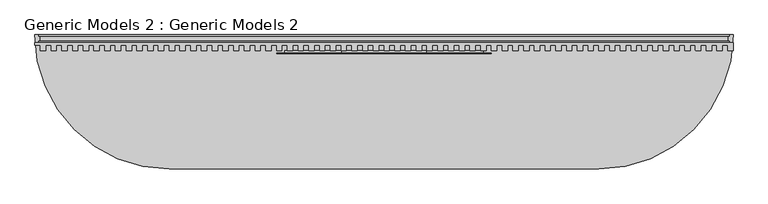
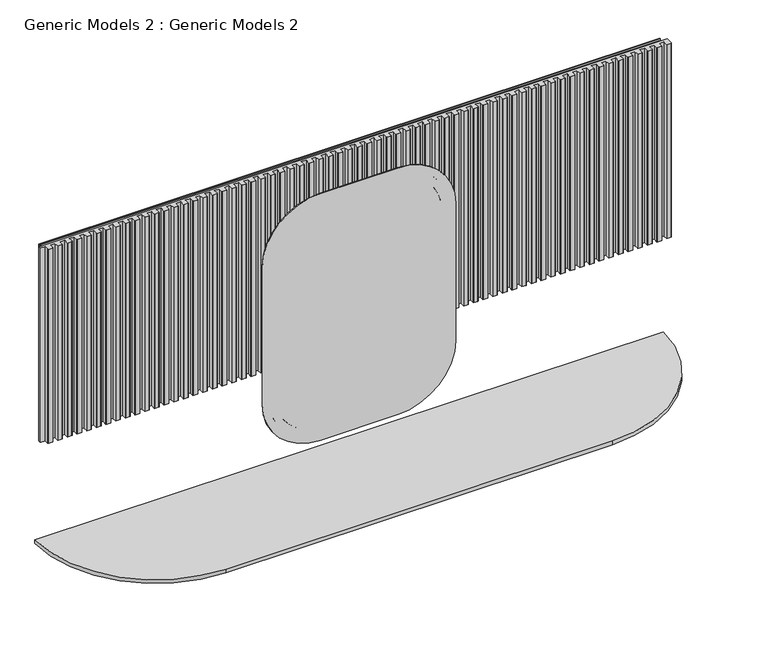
"""IFC4 building model written with IfcOpenShell, lengths in millimetres: proxy geometry, Generic Models 2 : Generic Models 2."""

from ifc_helpers import new_model, si_unit, point, frame, frame_2d, origin, place, context, project, spatial, polyline, circle_curve, trimmed, segment, composite_curve, outline, extrude, faceted_brep, source, transform, mapped, element, save


def generic_models_2_generic_models_2_3f50845c(model_context):
    return source(origin(), model_context, "Body", "SolidModel", [
        extrude(outline(composite_curve([segment(polyline([(4601.8449565, -6094.4040425), (4601.8449565, -6123.4040425)]), True, "CONTINUOUS"), segment(trimmed(circle_curve(frame_2d((4600.8449565, -6123.4040425)), 1.0), [point((4601.8449565, -6123.4040425))], [point((4600.8449565, -6124.4040425))], False, "CARTESIAN"), True, "CONTINUOUS"), segment(polyline([(4600.8449565, -6124.4040425), (4582.8449565, -6124.4040425)]), True, "CONTINUOUS"), segment(trimmed(circle_curve(frame_2d((4582.8449565, -6123.4040425)), 1.0), [point((4582.8449565, -6124.4040425))], [point((4581.8449565, -6123.4040425))], False, "CARTESIAN"), True, "CONTINUOUS"), segment(polyline([(4581.8449565, -6123.4040425), (4581.8449565, -6104.4040425), (4561.8449565, -6104.4040425), (4561.8449565, -6123.4040425)]), True, "CONTINUOUS"), segment(trimmed(circle_curve(frame_2d((4560.8449565, -6123.4040425)), 1.0), [point((4561.8449565, -6123.4040425))], [point((4560.8449565, -6124.4040425))], False, "CARTESIAN"), True, "CONTINUOUS"), segment(polyline([(4560.8449565, -6124.4040425), (4542.8449565, -6124.4040425)]), True, "CONTINUOUS"), segment(trimmed(circle_curve(frame_2d((4542.8449565, -6123.4040425)), 1.0), [point((4542.8449565, -6124.4040425))], [point((4541.8449565, -6123.4040425))], False, "CARTESIAN"), True, "CONTINUOUS"), segment(polyline([(4541.8449565, -6123.4040425), (4541.8449565, -6104.4040425), (4521.8449565, -6104.4040425), (4521.8449565, -6123.4040425)]), True, "CONTINUOUS"), segment(trimmed(circle_curve(frame_2d((4520.8449565, -6123.4040425)), 1.0), [point((4521.8449565, -6123.4040425))], [point((4520.8449565, -6124.4040425))], False, "CARTESIAN"), True, "CONTINUOUS"), segment(polyline([(4520.8449565, -6124.4040425), (4502.8449565, -6124.4040425)]), True, "CONTINUOUS"), segment(trimmed(circle_curve(frame_2d((4502.8449565, -6123.4040425)), 1.0), [point((4502.8449565, -6124.4040425))], [point((4501.8449565, -6123.4040425))], False, "CARTESIAN"), True, "CONTINUOUS"), segment(polyline([(4501.8449565, -6123.4040425), (4501.8449565, -6104.4040425), (4481.8449565, -6104.4040425), (4481.8449565, -6123.4040425)]), True, "CONTINUOUS"), segment(trimmed(circle_curve(frame_2d((4480.8449565, -6123.4040425)), 1.0), [point((4481.8449565, -6123.4040425))], [point((4480.8449565, -6124.4040425))], False, "CARTESIAN"), True, "CONTINUOUS"), segment(polyline([(4480.8449565, -6124.4040425), (4462.8449565, -6124.4040425)]), True, "CONTINUOUS"), segment(trimmed(circle_curve(frame_2d((4462.8449565, -6123.4040425)), 1.0), [point((4462.8449565, -6124.4040425))], [point((4461.8449565, -6123.4040425))], False, "CARTESIAN"), True, "CONTINUOUS"), segment(polyline([(4461.8449565, -6123.4040425), (4461.8449565, -6104.4040425), (4441.8449565, -6104.4040425), (4441.8449565, -6123.4040425)]), True, "CONTINUOUS"), segment(trimmed(circle_curve(frame_2d((4440.8449565, -6123.4040425)), 1.0), [point((4441.8449565, -6123.4040425))], [point((4440.8449565, -6124.4040425))], False, "CARTESIAN"), True, "CONTINUOUS"), segment(polyline([(4440.8449565, -6124.4040425), (4422.8449565, -6124.4040425)]), True, "CONTINUOUS"), segment(trimmed(circle_curve(frame_2d((4422.8449565, -6123.4040425)), 1.0), [point((4422.8449565, -6124.4040425))], [point((4421.8449565, -6123.4040425))], False, "CARTESIAN"), True, "CONTINUOUS"), segment(polyline([(4421.8449565, -6123.4040425), (4421.8449565, -6104.4040425), (4401.8449565, -6104.4040425), (4401.8449565, -6123.4040425)]), True, "CONTINUOUS"), segment(trimmed(circle_curve(frame_2d((4400.8449565, -6123.4040425)), 1.0), [point((4401.8449565, -6123.4040425))], [point((4400.8449565, -6124.4040425))], False, "CARTESIAN"), True, "CONTINUOUS"), segment(polyline([(4400.8449565, -6124.4040425), (4382.8449565, -6124.4040425)]), True, "CONTINUOUS"), segment(trimmed(circle_curve(frame_2d((4382.8449565, -6123.4040425)), 1.0), [point((4382.8449565, -6124.4040425))], [point((4381.8449565, -6123.4040425))], False, "CARTESIAN"), True, "CONTINUOUS"), segment(polyline([(4381.8449565, -6123.4040425), (4381.8449565, -6104.4040425), (4361.8449565, -6104.4040425), (4361.8449565, -6123.4040425)]), True, "CONTINUOUS"), segment(trimmed(circle_curve(frame_2d((4360.8449565, -6123.4040425)), 1.0), [point((4361.8449565, -6123.4040425))], [point((4360.8449565, -6124.4040425))], False, "CARTESIAN"), True, "CONTINUOUS"), segment(polyline([(4360.8449565, -6124.4040425), (4342.8449565, -6124.4040425)]), True, "CONTINUOUS"), segment(trimmed(circle_curve(frame_2d((4342.8449565, -6123.4040425)), 1.0), [point((4342.8449565, -6124.4040425))], [point((4341.8449565, -6123.4040425))], False, "CARTESIAN"), True, "CONTINUOUS"), segment(polyline([(4341.8449565, -6123.4040425), (4341.8449565, -6104.4040425), (4321.8449565, -6104.4040425), (4321.8449565, -6123.4040425)]), True, "CONTINUOUS"), segment(trimmed(circle_curve(frame_2d((4320.8449565, -6123.4040425)), 1.0), [point((4321.8449565, -6123.4040425))], [point((4320.8449565, -6124.4040425))], False, "CARTESIAN"), True, "CONTINUOUS"), segment(polyline([(4320.8449565, -6124.4040425), (4302.8449565, -6124.4040425)]), True, "CONTINUOUS"), segment(trimmed(circle_curve(frame_2d((4302.8449565, -6123.4040425)), 1.0), [point((4302.8449565, -6124.4040425))], [point((4301.8449565, -6123.4040425))], False, "CARTESIAN"), True, "CONTINUOUS"), segment(polyline([(4301.8449565, -6123.4040425), (4301.8449565, -6104.4040425), (4281.8449565, -6104.4040425), (4281.8449565, -6123.4040425)]), True, "CONTINUOUS"), segment(trimmed(circle_curve(frame_2d((4280.8449565, -6123.4040425)), 1.0), [point((4281.8449565, -6123.4040425))], [point((4280.8449565, -6124.4040425))], False, "CARTESIAN"), True, "CONTINUOUS"), segment(polyline([(4280.8449565, -6124.4040425), (4262.8449565, -6124.4040425)]), True, "CONTINUOUS"), segment(trimmed(circle_curve(frame_2d((4262.8449565, -6123.4040425)), 1.0), [point((4262.8449565, -6124.4040425))], [point((4261.8449565, -6123.4040425))], False, "CARTESIAN"), True, "CONTINUOUS"), segment(polyline([(4261.8449565, -6123.4040425), (4261.8449565, -6104.4040425), (4241.8449565, -6104.4040425), (4241.8449565, -6123.4040425)]), True, "CONTINUOUS"), segment(trimmed(circle_curve(frame_2d((4240.8449565, -6123.4040425)), 1.0), [point((4241.8449565, -6123.4040425))], [point((4240.8449565, -6124.4040425))], False, "CARTESIAN"), True, "CONTINUOUS"), segment(polyline([(4240.8449565, -6124.4040425), (4222.8449565, -6124.4040425)]), True, "CONTINUOUS"), segment(trimmed(circle_curve(frame_2d((4222.8449565, -6123.4040425)), 1.0), [point((4222.8449565, -6124.4040425))], [point((4221.8449565, -6123.4040425))], False, "CARTESIAN"), True, "CONTINUOUS"), segment(polyline([(4221.8449565, -6123.4040425), (4221.8449565, -6104.4040425), (4201.8449565, -6104.4040425), (4201.8449565, -6123.4040425)]), True, "CONTINUOUS"), segment(trimmed(circle_curve(frame_2d((4200.8449565, -6123.4040425)), 1.0), [point((4201.8449565, -6123.4040425))], [point((4200.8449565, -6124.4040425))], False, "CARTESIAN"), True, "CONTINUOUS"), segment(polyline([(4200.8449565, -6124.4040425), (4182.8449565, -6124.4040425)]), True, "CONTINUOUS"), segment(trimmed(circle_curve(frame_2d((4182.8449565, -6123.4040425)), 1.0), [point((4182.8449565, -6124.4040425))], [point((4181.8449565, -6123.4040425))], False, "CARTESIAN"), True, "CONTINUOUS"), segment(polyline([(4181.8449565, -6123.4040425), (4181.8449565, -6104.4040425), (4161.8449565, -6104.4040425), (4161.8449565, -6123.4040425)]), True, "CONTINUOUS"), segment(trimmed(circle_curve(frame_2d((4160.8449565, -6123.4040425)), 1.0), [point((4161.8449565, -6123.4040425))], [point((4160.8449565, -6124.4040425))], False, "CARTESIAN"), True, "CONTINUOUS"), segment(polyline([(4160.8449565, -6124.4040425), (4142.8449565, -6124.4040425)]), True, "CONTINUOUS"), segment(trimmed(circle_curve(frame_2d((4142.8449565, -6123.4040425)), 1.0), [point((4142.8449565, -6124.4040425))], [point((4141.8449565, -6123.4040425))], False, "CARTESIAN"), True, "CONTINUOUS"), segment(polyline([(4141.8449565, -6123.4040425), (4141.8449565, -6104.4040425), (4121.8449565, -6104.4040425), (4121.8449565, -6123.4040425)]), True, "CONTINUOUS"), segment(trimmed(circle_curve(frame_2d((4120.8449565, -6123.4040425)), 1.0), [point((4121.8449565, -6123.4040425))], [point((4120.8449565, -6124.4040425))], False, "CARTESIAN"), True, "CONTINUOUS"), segment(polyline([(4120.8449565, -6124.4040425), (4102.8449565, -6124.4040425)]), True, "CONTINUOUS"), segment(trimmed(circle_curve(frame_2d((4102.8449565, -6123.4040425)), 1.0), [point((4102.8449565, -6124.4040425))], [point((4101.8449565, -6123.4040425))], False, "CARTESIAN"), True, "CONTINUOUS"), segment(polyline([(4101.8449565, -6123.4040425), (4101.8449565, -6104.4040425), (4081.8449565, -6104.4040425), (4081.8449565, -6123.4040425)]), True, "CONTINUOUS"), segment(trimmed(circle_curve(frame_2d((4080.8449565, -6123.4040425)), 1.0), [point((4081.8449565, -6123.4040425))], [point((4080.8449565, -6124.4040425))], False, "CARTESIAN"), True, "CONTINUOUS"), segment(polyline([(4080.8449565, -6124.4040425), (4062.8449565, -6124.4040425)]), True, "CONTINUOUS"), segment(trimmed(circle_curve(frame_2d((4062.8449565, -6123.4040425)), 1.0), [point((4062.8449565, -6124.4040425))], [point((4061.8449565, -6123.4040425))], False, "CARTESIAN"), True, "CONTINUOUS"), segment(polyline([(4061.8449565, -6123.4040425), (4061.8449565, -6104.4040425), (4041.8449565, -6104.4040425), (4041.8449565, -6123.4040425)]), True, "CONTINUOUS"), segment(trimmed(circle_curve(frame_2d((4040.8449565, -6123.4040425)), 1.0), [point((4041.8449565, -6123.4040425))], [point((4040.8449565, -6124.4040425))], False, "CARTESIAN"), True, "CONTINUOUS"), segment(polyline([(4040.8449565, -6124.4040425), (4022.8449565, -6124.4040425)]), True, "CONTINUOUS"), segment(trimmed(circle_curve(frame_2d((4022.8449565, -6123.4040425)), 1.0), [point((4022.8449565, -6124.4040425))], [point((4021.8449565, -6123.4040425))], False, "CARTESIAN"), True, "CONTINUOUS"), segment(polyline([(4021.8449565, -6123.4040425), (4021.8449565, -6104.4040425), (4001.8449565, -6104.4040425), (4001.8449565, -6123.4040425)]), True, "CONTINUOUS"), segment(trimmed(circle_curve(frame_2d((4000.8449565, -6123.4040425)), 1.0), [point((4001.8449565, -6123.4040425))], [point((4000.8449565, -6124.4040425))], False, "CARTESIAN"), True, "CONTINUOUS"), segment(polyline([(4000.8449565, -6124.4040425), (3982.8449565, -6124.4040425)]), True, "CONTINUOUS"), segment(trimmed(circle_curve(frame_2d((3982.8449565, -6123.4040425)), 1.0), [point((3982.8449565, -6124.4040425))], [point((3981.8449565, -6123.4040425))], False, "CARTESIAN"), True, "CONTINUOUS"), segment(polyline([(3981.8449565, -6123.4040425), (3981.8449565, -6104.4040425), (3961.8449565, -6104.4040425), (3961.8449565, -6123.4040425)]), True, "CONTINUOUS"), segment(trimmed(circle_curve(frame_2d((3960.8449565, -6123.4040425)), 1.0), [point((3961.8449565, -6123.4040425))], [point((3960.8449565, -6124.4040425))], False, "CARTESIAN"), True, "CONTINUOUS"), segment(polyline([(3960.8449565, -6124.4040425), (3942.8449565, -6124.4040425)]), True, "CONTINUOUS"), segment(trimmed(circle_curve(frame_2d((3942.8449565, -6123.4040425)), 1.0), [point((3942.8449565, -6124.4040425))], [point((3941.8449565, -6123.4040425))], False, "CARTESIAN"), True, "CONTINUOUS"), segment(polyline([(3941.8449565, -6123.4040425), (3941.8449565, -6104.4040425), (3921.8449565, -6104.4040425), (3921.8449565, -6123.4040425)]), True, "CONTINUOUS"), segment(trimmed(circle_curve(frame_2d((3920.8449565, -6123.4040425)), 1.0), [point((3921.8449565, -6123.4040425))], [point((3920.8449565, -6124.4040425))], False, "CARTESIAN"), True, "CONTINUOUS"), segment(polyline([(3920.8449565, -6124.4040425), (3902.8449565, -6124.4040425)]), True, "CONTINUOUS"), segment(trimmed(circle_curve(frame_2d((3902.8449565, -6123.4040425)), 1.0), [point((3902.8449565, -6124.4040425))], [point((3901.8449565, -6123.4040425))], False, "CARTESIAN"), True, "CONTINUOUS"), segment(polyline([(3901.8449565, -6123.4040425), (3901.8449565, -6104.4040425), (3881.8449565, -6104.4040425), (3881.8449565, -6123.4040425)]), True, "CONTINUOUS"), segment(trimmed(circle_curve(frame_2d((3880.8449565, -6123.4040425)), 1.0), [point((3881.8449565, -6123.4040425))], [point((3880.8449565, -6124.4040425))], False, "CARTESIAN"), True, "CONTINUOUS"), segment(polyline([(3880.8449565, -6124.4040425), (3862.8449565, -6124.4040425)]), True, "CONTINUOUS"), segment(trimmed(circle_curve(frame_2d((3862.8449565, -6123.4040425)), 1.0), [point((3862.8449565, -6124.4040425))], [point((3861.8449565, -6123.4040425))], False, "CARTESIAN"), True, "CONTINUOUS"), segment(polyline([(3861.8449565, -6123.4040425), (3861.8449565, -6104.4040425), (3841.8449565, -6104.4040425), (3841.8449565, -6123.4040425)]), True, "CONTINUOUS"), segment(trimmed(circle_curve(frame_2d((3840.8449565, -6123.4040425)), 1.0), [point((3841.8449565, -6123.4040425))], [point((3840.8449565, -6124.4040425))], False, "CARTESIAN"), True, "CONTINUOUS"), segment(polyline([(3840.8449565, -6124.4040425), (3822.8449565, -6124.4040425)]), True, "CONTINUOUS"), segment(trimmed(circle_curve(frame_2d((3822.8449565, -6123.4040425)), 1.0), [point((3822.8449565, -6124.4040425))], [point((3821.8449565, -6123.4040425))], False, "CARTESIAN"), True, "CONTINUOUS"), segment(polyline([(3821.8449565, -6123.4040425), (3821.8449565, -6104.4040425), (3801.8449565, -6104.4040425), (3801.8449565, -6123.4040425)]), True, "CONTINUOUS"), segment(trimmed(circle_curve(frame_2d((3800.8449565, -6123.4040425)), 1.0), [point((3801.8449565, -6123.4040425))], [point((3800.8449565, -6124.4040425))], False, "CARTESIAN"), True, "CONTINUOUS"), segment(polyline([(3800.8449565, -6124.4040425), (3782.8449565, -6124.4040425)]), True, "CONTINUOUS"), segment(trimmed(circle_curve(frame_2d((3782.8449565, -6123.4040425)), 1.0), [point((3782.8449565, -6124.4040425))], [point((3781.8449565, -6123.4040425))], False, "CARTESIAN"), True, "CONTINUOUS"), segment(polyline([(3781.8449565, -6123.4040425), (3781.8449565, -6104.4040425), (3761.8449565, -6104.4040425), (3761.8449565, -6123.4040425)]), True, "CONTINUOUS"), segment(trimmed(circle_curve(frame_2d((3760.8449565, -6123.4040425)), 1.0), [point((3761.8449565, -6123.4040425))], [point((3760.8449565, -6124.4040425))], False, "CARTESIAN"), True, "CONTINUOUS"), segment(polyline([(3760.8449565, -6124.4040425), (3742.8449565, -6124.4040425)]), True, "CONTINUOUS"), segment(trimmed(circle_curve(frame_2d((3742.8449565, -6123.4040425)), 1.0), [point((3742.8449565, -6124.4040425))], [point((3741.8449565, -6123.4040425))], False, "CARTESIAN"), True, "CONTINUOUS"), segment(polyline([(3741.8449565, -6123.4040425), (3741.8449565, -6104.4040425), (3721.8449565, -6104.4040425), (3721.8449565, -6123.4040425)]), True, "CONTINUOUS"), segment(trimmed(circle_curve(frame_2d((3720.8449565, -6123.4040425)), 1.0), [point((3721.8449565, -6123.4040425))], [point((3720.8449565, -6124.4040425))], False, "CARTESIAN"), True, "CONTINUOUS"), segment(polyline([(3720.8449565, -6124.4040425), (3702.8449565, -6124.4040425)]), True, "CONTINUOUS"), segment(trimmed(circle_curve(frame_2d((3702.8449565, -6123.4040425)), 1.0), [point((3702.8449565, -6124.4040425))], [point((3701.8449565, -6123.4040425))], False, "CARTESIAN"), True, "CONTINUOUS"), segment(polyline([(3701.8449565, -6123.4040425), (3701.8449565, -6104.4040425), (3681.8449565, -6104.4040425), (3681.8449565, -6123.4040425)]), True, "CONTINUOUS"), segment(trimmed(circle_curve(frame_2d((3680.8449565, -6123.4040425)), 1.0), [point((3681.8449565, -6123.4040425))], [point((3680.8449565, -6124.4040425))], False, "CARTESIAN"), True, "CONTINUOUS"), segment(polyline([(3680.8449565, -6124.4040425), (3662.8449565, -6124.4040425)]), True, "CONTINUOUS"), segment(trimmed(circle_curve(frame_2d((3662.8449565, -6123.4040425)), 1.0), [point((3662.8449565, -6124.4040425))], [point((3661.8449565, -6123.4040425))], False, "CARTESIAN"), True, "CONTINUOUS"), segment(polyline([(3661.8449565, -6123.4040425), (3661.8449565, -6104.4040425), (3641.8449565, -6104.4040425), (3641.8449565, -6123.4040425)]), True, "CONTINUOUS"), segment(trimmed(circle_curve(frame_2d((3640.8449565, -6123.4040425)), 1.0), [point((3641.8449565, -6123.4040425))], [point((3640.8449565, -6124.4040425))], False, "CARTESIAN"), True, "CONTINUOUS"), segment(polyline([(3640.8449565, -6124.4040425), (3622.8449565, -6124.4040425)]), True, "CONTINUOUS"), segment(trimmed(circle_curve(frame_2d((3622.8449565, -6123.4040425)), 1.0), [point((3622.8449565, -6124.4040425))], [point((3621.8449565, -6123.4040425))], False, "CARTESIAN"), True, "CONTINUOUS"), segment(polyline([(3621.8449565, -6123.4040425), (3621.8449565, -6104.4040425), (3601.8449565, -6104.4040425), (3601.8449565, -6123.4040425)]), True, "CONTINUOUS"), segment(trimmed(circle_curve(frame_2d((3600.8449565, -6123.4040425)), 1.0), [point((3601.8449565, -6123.4040425))], [point((3600.8449565, -6124.4040425))], False, "CARTESIAN"), True, "CONTINUOUS"), segment(polyline([(3600.8449565, -6124.4040425), (3582.8449565, -6124.4040425)]), True, "CONTINUOUS"), segment(trimmed(circle_curve(frame_2d((3582.8449565, -6123.4040425)), 1.0), [point((3582.8449565, -6124.4040425))], [point((3581.8449565, -6123.4040425))], False, "CARTESIAN"), True, "CONTINUOUS"), segment(polyline([(3581.8449565, -6123.4040425), (3581.8449565, -6104.4040425), (3561.8449565, -6104.4040425), (3561.8449565, -6123.4040425)]), True, "CONTINUOUS"), segment(trimmed(circle_curve(frame_2d((3560.8449565, -6123.4040425)), 1.0), [point((3561.8449565, -6123.4040425))], [point((3560.8449565, -6124.4040425))], False, "CARTESIAN"), True, "CONTINUOUS"), segment(polyline([(3560.8449565, -6124.4040425), (3542.8449565, -6124.4040425)]), True, "CONTINUOUS"), segment(trimmed(circle_curve(frame_2d((3542.8449565, -6123.4040425)), 1.0), [point((3542.8449565, -6124.4040425))], [point((3541.8449565, -6123.4040425))], False, "CARTESIAN"), True, "CONTINUOUS"), segment(polyline([(3541.8449565, -6123.4040425), (3541.8449565, -6104.4040425), (3521.8449565, -6104.4040425), (3521.8449565, -6123.4040425)]), True, "CONTINUOUS"), segment(trimmed(circle_curve(frame_2d((3520.8449565, -6123.4040425)), 1.0), [point((3521.8449565, -6123.4040425))], [point((3520.8449565, -6124.4040425))], False, "CARTESIAN"), True, "CONTINUOUS"), segment(polyline([(3520.8449565, -6124.4040425), (3502.8449565, -6124.4040425)]), True, "CONTINUOUS"), segment(trimmed(circle_curve(frame_2d((3502.8449565, -6123.4040425)), 1.0), [point((3502.8449565, -6124.4040425))], [point((3501.8449565, -6123.4040425))], False, "CARTESIAN"), True, "CONTINUOUS"), segment(polyline([(3501.8449565, -6123.4040425), (3501.8449565, -6104.4040425), (3481.8449565, -6104.4040425), (3481.8449565, -6123.4040425)]), True, "CONTINUOUS"), segment(trimmed(circle_curve(frame_2d((3480.8449565, -6123.4040425)), 1.0), [point((3481.8449565, -6123.4040425))], [point((3480.8449565, -6124.4040425))], False, "CARTESIAN"), True, "CONTINUOUS"), segment(polyline([(3480.8449565, -6124.4040425), (3462.8449565, -6124.4040425)]), True, "CONTINUOUS"), segment(trimmed(circle_curve(frame_2d((3462.8449565, -6123.4040425)), 1.0), [point((3462.8449565, -6124.4040425))], [point((3461.8449565, -6123.4040425))], False, "CARTESIAN"), True, "CONTINUOUS"), segment(polyline([(3461.8449565, -6123.4040425), (3461.8449565, -6104.4040425), (3441.8449565, -6104.4040425), (3441.8449565, -6123.4040425)]), True, "CONTINUOUS"), segment(trimmed(circle_curve(frame_2d((3440.8449565, -6123.4040425)), 1.0), [point((3441.8449565, -6123.4040425))], [point((3440.8449565, -6124.4040425))], False, "CARTESIAN"), True, "CONTINUOUS"), segment(polyline([(3440.8449565, -6124.4040425), (3422.8449565, -6124.4040425)]), True, "CONTINUOUS"), segment(trimmed(circle_curve(frame_2d((3422.8449565, -6123.4040425)), 1.0), [point((3422.8449565, -6124.4040425))], [point((3421.8449565, -6123.4040425))], False, "CARTESIAN"), True, "CONTINUOUS"), segment(polyline([(3421.8449565, -6123.4040425), (3421.8449565, -6104.4040425), (3401.8449565, -6104.4040425), (3401.8449565, -6123.4040425)]), True, "CONTINUOUS"), segment(trimmed(circle_curve(frame_2d((3400.8449565, -6123.4040425)), 1.0), [point((3401.8449565, -6123.4040425))], [point((3400.8449565, -6124.4040425))], False, "CARTESIAN"), True, "CONTINUOUS"), segment(polyline([(3400.8449565, -6124.4040425), (3382.8449565, -6124.4040425)]), True, "CONTINUOUS"), segment(trimmed(circle_curve(frame_2d((3382.8449565, -6123.4040425)), 1.0), [point((3382.8449565, -6124.4040425))], [point((3381.8449565, -6123.4040425))], False, "CARTESIAN"), True, "CONTINUOUS"), segment(polyline([(3381.8449565, -6123.4040425), (3381.8449565, -6104.4040425), (3361.8449565, -6104.4040425), (3361.8449565, -6123.4040425)]), True, "CONTINUOUS"), segment(trimmed(circle_curve(frame_2d((3360.8449565, -6123.4040425)), 1.0), [point((3361.8449565, -6123.4040425))], [point((3360.8449565, -6124.4040425))], False, "CARTESIAN"), True, "CONTINUOUS"), segment(polyline([(3360.8449565, -6124.4040425), (3342.8449565, -6124.4040425)]), True, "CONTINUOUS"), segment(trimmed(circle_curve(frame_2d((3342.8449565, -6123.4040425)), 1.0), [point((3342.8449565, -6124.4040425))], [point((3341.8449565, -6123.4040425))], False, "CARTESIAN"), True, "CONTINUOUS"), segment(polyline([(3341.8449565, -6123.4040425), (3341.8449565, -6104.4040425), (3321.8449565, -6104.4040425), (3321.8449565, -6123.4040425)]), True, "CONTINUOUS"), segment(trimmed(circle_curve(frame_2d((3320.8449565, -6123.4040425)), 1.0), [point((3321.8449565, -6123.4040425))], [point((3320.8449565, -6124.4040425))], False, "CARTESIAN"), True, "CONTINUOUS"), segment(polyline([(3320.8449565, -6124.4040425), (3302.8449565, -6124.4040425)]), True, "CONTINUOUS"), segment(trimmed(circle_curve(frame_2d((3302.8449565, -6123.4040425)), 1.0), [point((3302.8449565, -6124.4040425))], [point((3301.8449565, -6123.4040425))], False, "CARTESIAN"), True, "CONTINUOUS"), segment(polyline([(3301.8449565, -6123.4040425), (3301.8449565, -6104.4040425), (3281.8449565, -6104.4040425), (3281.8449565, -6123.4040425)]), True, "CONTINUOUS"), segment(trimmed(circle_curve(frame_2d((3280.8449565, -6123.4040425)), 1.0), [point((3281.8449565, -6123.4040425))], [point((3280.8449565, -6124.4040425))], False, "CARTESIAN"), True, "CONTINUOUS"), segment(polyline([(3280.8449565, -6124.4040425), (3262.8449565, -6124.4040425)]), True, "CONTINUOUS"), segment(trimmed(circle_curve(frame_2d((3262.8449565, -6123.4040425)), 1.0), [point((3262.8449565, -6124.4040425))], [point((3261.8449565, -6123.4040425))], False, "CARTESIAN"), True, "CONTINUOUS"), segment(polyline([(3261.8449565, -6123.4040425), (3261.8449565, -6104.4040425), (3241.8449565, -6104.4040425), (3241.8449565, -6123.4040425)]), True, "CONTINUOUS"), segment(trimmed(circle_curve(frame_2d((3240.8449565, -6123.4040425)), 1.0), [point((3241.8449565, -6123.4040425))], [point((3240.8449565, -6124.4040425))], False, "CARTESIAN"), True, "CONTINUOUS"), segment(polyline([(3240.8449565, -6124.4040425), (3222.8449565, -6124.4040425)]), True, "CONTINUOUS"), segment(trimmed(circle_curve(frame_2d((3222.8449565, -6123.4040425)), 1.0), [point((3222.8449565, -6124.4040425))], [point((3221.8449565, -6123.4040425))], False, "CARTESIAN"), True, "CONTINUOUS"), segment(polyline([(3221.8449565, -6123.4040425), (3221.8449565, -6104.4040425), (3201.8449565, -6104.4040425), (3201.8449565, -6123.4040425)]), True, "CONTINUOUS"), segment(trimmed(circle_curve(frame_2d((3200.8449565, -6123.4040425)), 1.0), [point((3201.8449565, -6123.4040425))], [point((3200.8449565, -6124.4040425))], False, "CARTESIAN"), True, "CONTINUOUS"), segment(polyline([(3200.8449565, -6124.4040425), (3182.8449565, -6124.4040425)]), True, "CONTINUOUS"), segment(trimmed(circle_curve(frame_2d((3182.8449565, -6123.4040425)), 1.0), [point((3182.8449565, -6124.4040425))], [point((3181.8449565, -6123.4040425))], False, "CARTESIAN"), True, "CONTINUOUS"), segment(polyline([(3181.8449565, -6123.4040425), (3181.8449565, -6104.4040425), (3161.8449565, -6104.4040425), (3161.8449565, -6123.4040425)]), True, "CONTINUOUS"), segment(trimmed(circle_curve(frame_2d((3160.8449565, -6123.4040425)), 1.0), [point((3161.8449565, -6123.4040425))], [point((3160.8449565, -6124.4040425))], False, "CARTESIAN"), True, "CONTINUOUS"), segment(polyline([(3160.8449565, -6124.4040425), (3142.8449565, -6124.4040425)]), True, "CONTINUOUS"), segment(trimmed(circle_curve(frame_2d((3142.8449565, -6123.4040425)), 1.0), [point((3142.8449565, -6124.4040425))], [point((3141.8449565, -6123.4040425))], False, "CARTESIAN"), True, "CONTINUOUS"), segment(polyline([(3141.8449565, -6123.4040425), (3141.8449565, -6104.4040425), (3121.8449565, -6104.4040425), (3121.8449565, -6123.4040425)]), True, "CONTINUOUS"), segment(trimmed(circle_curve(frame_2d((3120.8449565, -6123.4040425)), 1.0), [point((3121.8449565, -6123.4040425))], [point((3120.8449565, -6124.4040425))], False, "CARTESIAN"), True, "CONTINUOUS"), segment(polyline([(3120.8449565, -6124.4040425), (3102.8449565, -6124.4040425)]), True, "CONTINUOUS"), segment(trimmed(circle_curve(frame_2d((3102.8449565, -6123.4040425)), 1.0), [point((3102.8449565, -6124.4040425))], [point((3101.8449565, -6123.4040425))], False, "CARTESIAN"), True, "CONTINUOUS"), segment(polyline([(3101.8449565, -6123.4040425), (3101.8449565, -6104.4040425), (3081.8449565, -6104.4040425), (3081.8449565, -6123.4040425)]), True, "CONTINUOUS"), segment(trimmed(circle_curve(frame_2d((3080.8449565, -6123.4040425)), 1.0), [point((3081.8449565, -6123.4040425))], [point((3080.8449565, -6124.4040425))], False, "CARTESIAN"), True, "CONTINUOUS"), segment(polyline([(3080.8449565, -6124.4040425), (3062.8449565, -6124.4040425)]), True, "CONTINUOUS"), segment(trimmed(circle_curve(frame_2d((3062.8449565, -6123.4040425)), 1.0), [point((3062.8449565, -6124.4040425))], [point((3061.8449565, -6123.4040425))], False, "CARTESIAN"), True, "CONTINUOUS"), segment(polyline([(3061.8449565, -6123.4040425), (3061.8449565, -6104.4040425), (3041.8449565, -6104.4040425), (3041.8449565, -6123.4040425)]), True, "CONTINUOUS"), segment(trimmed(circle_curve(frame_2d((3040.8449565, -6123.4040425)), 1.0), [point((3041.8449565, -6123.4040425))], [point((3040.8449565, -6124.4040425))], False, "CARTESIAN"), True, "CONTINUOUS"), segment(polyline([(3040.8449565, -6124.4040425), (3022.8449565, -6124.4040425)]), True, "CONTINUOUS"), segment(trimmed(circle_curve(frame_2d((3022.8449565, -6123.4040425)), 1.0), [point((3022.8449565, -6124.4040425))], [point((3021.8449565, -6123.4040425))], False, "CARTESIAN"), True, "CONTINUOUS"), segment(polyline([(3021.8449565, -6123.4040425), (3021.8449565, -6104.4040425), (3001.8449565, -6104.4040425), (3001.8449565, -6123.4040425)]), True, "CONTINUOUS"), segment(trimmed(circle_curve(frame_2d((3000.8449565, -6123.4040425)), 1.0), [point((3001.8449565, -6123.4040425))], [point((3000.8449565, -6124.4040425))], False, "CARTESIAN"), True, "CONTINUOUS"), segment(polyline([(3000.8449565, -6124.4040425), (2982.8449565, -6124.4040425)]), True, "CONTINUOUS"), segment(trimmed(circle_curve(frame_2d((2982.8449565, -6123.4040425)), 1.0), [point((2982.8449565, -6124.4040425))], [point((2981.8449565, -6123.4040425))], False, "CARTESIAN"), True, "CONTINUOUS"), segment(polyline([(2981.8449565, -6123.4040425), (2981.8449565, -6104.4040425), (2961.8449565, -6104.4040425), (2961.8449565, -6123.4040425)]), True, "CONTINUOUS"), segment(trimmed(circle_curve(frame_2d((2960.8449565, -6123.4040425)), 1.0), [point((2961.8449565, -6123.4040425))], [point((2960.8449565, -6124.4040425))], False, "CARTESIAN"), True, "CONTINUOUS"), segment(polyline([(2960.8449565, -6124.4040425), (2942.8449565, -6124.4040425)]), True, "CONTINUOUS"), segment(trimmed(circle_curve(frame_2d((2942.8449565, -6123.4040425)), 1.0), [point((2942.8449565, -6124.4040425))], [point((2941.8449565, -6123.4040425))], False, "CARTESIAN"), True, "CONTINUOUS"), segment(polyline([(2941.8449565, -6123.4040425), (2941.8449565, -6104.4040425), (2921.8449565, -6104.4040425), (2921.8449565, -6123.4040425)]), True, "CONTINUOUS"), segment(trimmed(circle_curve(frame_2d((2920.8449565, -6123.4040425)), 1.0), [point((2921.8449565, -6123.4040425))], [point((2920.8449565, -6124.4040425))], False, "CARTESIAN"), True, "CONTINUOUS"), segment(polyline([(2920.8449565, -6124.4040425), (2902.8449565, -6124.4040425)]), True, "CONTINUOUS"), segment(trimmed(circle_curve(frame_2d((2902.8449565, -6123.4040425)), 1.0), [point((2902.8449565, -6124.4040425))], [point((2901.8449565, -6123.4040425))], False, "CARTESIAN"), True, "CONTINUOUS"), segment(polyline([(2901.8449565, -6123.4040425), (2901.8449565, -6104.4040425), (2881.8449565, -6104.4040425), (2881.8449565, -6123.4040425)]), True, "CONTINUOUS"), segment(trimmed(circle_curve(frame_2d((2880.8449565, -6123.4040425)), 1.0), [point((2881.8449565, -6123.4040425))], [point((2880.8449565, -6124.4040425))], False, "CARTESIAN"), True, "CONTINUOUS"), segment(polyline([(2880.8449565, -6124.4040425), (2862.8449565, -6124.4040425)]), True, "CONTINUOUS"), segment(trimmed(circle_curve(frame_2d((2862.8449565, -6123.4040425)), 1.0), [point((2862.8449565, -6124.4040425))], [point((2861.8449565, -6123.4040425))], False, "CARTESIAN"), True, "CONTINUOUS"), segment(polyline([(2861.8449565, -6123.4040425), (2861.8449565, -6104.4040425), (2841.8449565, -6104.4040425), (2841.8449565, -6123.4040425)]), True, "CONTINUOUS"), segment(trimmed(circle_curve(frame_2d((2840.8449565, -6123.4040425)), 1.0), [point((2841.8449565, -6123.4040425))], [point((2840.8449565, -6124.4040425))], False, "CARTESIAN"), True, "CONTINUOUS"), segment(polyline([(2840.8449565, -6124.4040425), (2822.8449565, -6124.4040425)]), True, "CONTINUOUS"), segment(trimmed(circle_curve(frame_2d((2822.8449565, -6123.4040425)), 1.0), [point((2822.8449565, -6124.4040425))], [point((2821.8449565, -6123.4040425))], False, "CARTESIAN"), True, "CONTINUOUS"), segment(polyline([(2821.8449565, -6123.4040425), (2821.8449565, -6104.4040425), (2801.8449565, -6104.4040425), (2801.8449565, -6123.4040425)]), True, "CONTINUOUS"), segment(trimmed(circle_curve(frame_2d((2800.8449565, -6123.4040425)), 1.0), [point((2801.8449565, -6123.4040425))], [point((2800.8449565, -6124.4040425))], False, "CARTESIAN"), True, "CONTINUOUS"), segment(polyline([(2800.8449565, -6124.4040425), (2782.8449565, -6124.4040425)]), True, "CONTINUOUS"), segment(trimmed(circle_curve(frame_2d((2782.8449565, -6123.4040425)), 1.0), [point((2782.8449565, -6124.4040425))], [point((2781.8449565, -6123.4040425))], False, "CARTESIAN"), True, "CONTINUOUS"), segment(polyline([(2781.8449565, -6123.4040425), (2781.8449565, -6104.4040425), (2761.8449565, -6104.4040425), (2761.8449565, -6123.4040425)]), True, "CONTINUOUS"), segment(trimmed(circle_curve(frame_2d((2760.8449565, -6123.4040425)), 1.0), [point((2761.8449565, -6123.4040425))], [point((2760.8449565, -6124.4040425))], False, "CARTESIAN"), True, "CONTINUOUS"), segment(polyline([(2760.8449565, -6124.4040425), (2742.8449565, -6124.4040425)]), True, "CONTINUOUS"), segment(trimmed(circle_curve(frame_2d((2742.8449565, -6123.4040425)), 1.0), [point((2742.8449565, -6124.4040425))], [point((2741.8449565, -6123.4040425))], False, "CARTESIAN"), True, "CONTINUOUS"), segment(polyline([(2741.8449565, -6123.4040425), (2741.8449565, -6104.4040425), (2721.8449565, -6104.4040425), (2721.8449565, -6123.4040425)]), True, "CONTINUOUS"), segment(trimmed(circle_curve(frame_2d((2720.8449565, -6123.4040425)), 1.0), [point((2721.8449565, -6123.4040425))], [point((2720.8449565, -6124.4040425))], False, "CARTESIAN"), True, "CONTINUOUS"), segment(polyline([(2720.8449565, -6124.4040425), (2702.8449565, -6124.4040425)]), True, "CONTINUOUS"), segment(trimmed(circle_curve(frame_2d((2702.8449565, -6123.4040425)), 1.0), [point((2702.8449565, -6124.4040425))], [point((2701.8449565, -6123.4040425))], False, "CARTESIAN"), True, "CONTINUOUS"), segment(polyline([(2701.8449565, -6123.4040425), (2701.8449565, -6104.4040425), (2681.8449565, -6104.4040425), (2681.8449565, -6123.4040425)]), True, "CONTINUOUS"), segment(trimmed(circle_curve(frame_2d((2680.8449565, -6123.4040425)), 1.0), [point((2681.8449565, -6123.4040425))], [point((2680.8449565, -6124.4040425))], False, "CARTESIAN"), True, "CONTINUOUS"), segment(polyline([(2680.8449565, -6124.4040425), (2662.8449565, -6124.4040425)]), True, "CONTINUOUS"), segment(trimmed(circle_curve(frame_2d((2662.8449565, -6123.4040425)), 1.0), [point((2662.8449565, -6124.4040425))], [point((2661.8449565, -6123.4040425))], False, "CARTESIAN"), True, "CONTINUOUS"), segment(polyline([(2661.8449565, -6123.4040425), (2661.8449565, -6104.4040425), (2641.8449565, -6104.4040425), (2641.8449565, -6123.4040425)]), True, "CONTINUOUS"), segment(trimmed(circle_curve(frame_2d((2640.8449565, -6123.4040425)), 1.0), [point((2641.8449565, -6123.4040425))], [point((2640.8449565, -6124.4040425))], False, "CARTESIAN"), True, "CONTINUOUS"), segment(polyline([(2640.8449565, -6124.4040425), (2622.8449565, -6124.4040425)]), True, "CONTINUOUS"), segment(trimmed(circle_curve(frame_2d((2622.8449565, -6123.4040425)), 1.0), [point((2622.8449565, -6124.4040425))], [point((2621.8449565, -6123.4040425))], False, "CARTESIAN"), True, "CONTINUOUS"), segment(polyline([(2621.8449565, -6123.4040425), (2621.8449565, -6104.4040425), (2601.8449565, -6104.4040425), (2601.8449565, -6123.4040425)]), True, "CONTINUOUS"), segment(trimmed(circle_curve(frame_2d((2600.8449565, -6123.4040425)), 1.0), [point((2601.8449565, -6123.4040425))], [point((2600.8449565, -6124.4040425))], False, "CARTESIAN"), True, "CONTINUOUS"), segment(polyline([(2600.8449565, -6124.4040425), (2582.8449565, -6124.4040425)]), True, "CONTINUOUS"), segment(trimmed(circle_curve(frame_2d((2582.8449565, -6123.4040425)), 1.0), [point((2582.8449565, -6124.4040425))], [point((2581.8449565, -6123.4040425))], False, "CARTESIAN"), True, "CONTINUOUS"), segment(polyline([(2581.8449565, -6123.4040425), (2581.8449565, -6104.4040425), (2561.8449565, -6104.4040425), (2561.8449565, -6123.4040425)]), True, "CONTINUOUS"), segment(trimmed(circle_curve(frame_2d((2560.8449565, -6123.4040425)), 1.0), [point((2561.8449565, -6123.4040425))], [point((2560.8449565, -6124.4040425))], False, "CARTESIAN"), True, "CONTINUOUS"), segment(polyline([(2560.8449565, -6124.4040425), (2542.8449565, -6124.4040425)]), True, "CONTINUOUS"), segment(trimmed(circle_curve(frame_2d((2542.8449565, -6123.4040425)), 1.0), [point((2542.8449565, -6124.4040425))], [point((2541.8449565, -6123.4040425))], False, "CARTESIAN"), True, "CONTINUOUS"), segment(polyline([(2541.8449565, -6123.4040425), (2541.8449565, -6104.4040425), (2521.8449565, -6104.4040425), (2521.8449565, -6123.4040425)]), True, "CONTINUOUS"), segment(trimmed(circle_curve(frame_2d((2520.8449565, -6123.4040425)), 1.0), [point((2521.8449565, -6123.4040425))], [point((2520.8449565, -6124.4040425))], False, "CARTESIAN"), True, "CONTINUOUS"), segment(polyline([(2520.8449565, -6124.4040425), (2502.8449565, -6124.4040425)]), True, "CONTINUOUS"), segment(trimmed(circle_curve(frame_2d((2502.8449565, -6123.4040425)), 1.0), [point((2502.8449565, -6124.4040425))], [point((2501.8449565, -6123.4040425))], False, "CARTESIAN"), True, "CONTINUOUS"), segment(polyline([(2501.8449565, -6123.4040425), (2501.8449565, -6104.4040425), (2481.8449565, -6104.4040425), (2481.8449565, -6123.4040425)]), True, "CONTINUOUS"), segment(trimmed(circle_curve(frame_2d((2480.8449565, -6123.4040425)), 1.0), [point((2481.8449565, -6123.4040425))], [point((2480.8449565, -6124.4040425))], False, "CARTESIAN"), True, "CONTINUOUS"), segment(polyline([(2480.8449565, -6124.4040425), (2462.8449565, -6124.4040425)]), True, "CONTINUOUS"), segment(trimmed(circle_curve(frame_2d((2462.8449565, -6123.4040425)), 1.0), [point((2462.8449565, -6124.4040425))], [point((2461.8449565, -6123.4040425))], False, "CARTESIAN"), True, "CONTINUOUS"), segment(polyline([(2461.8449565, -6123.4040425), (2461.8449565, -6104.4040425), (2441.8449565, -6104.4040425), (2441.8449565, -6123.4040425)]), True, "CONTINUOUS"), segment(trimmed(circle_curve(frame_2d((2440.8449565, -6123.4040425)), 1.0), [point((2441.8449565, -6123.4040425))], [point((2440.8449565, -6124.4040425))], False, "CARTESIAN"), True, "CONTINUOUS"), segment(polyline([(2440.8449565, -6124.4040425), (2422.8449565, -6124.4040425)]), True, "CONTINUOUS"), segment(trimmed(circle_curve(frame_2d((2422.8449565, -6123.4040425)), 1.0), [point((2422.8449565, -6124.4040425))], [point((2421.8449565, -6123.4040425))], False, "CARTESIAN"), True, "CONTINUOUS"), segment(polyline([(2421.8449565, -6123.4040425), (2421.8449565, -6104.4040425), (2401.8449565, -6104.4040425), (2401.8449565, -6123.4040425)]), True, "CONTINUOUS"), segment(trimmed(circle_curve(frame_2d((2400.8449565, -6123.4040425)), 1.0), [point((2401.8449565, -6123.4040425))], [point((2400.8449565, -6124.4040425))], False, "CARTESIAN"), True, "CONTINUOUS"), segment(polyline([(2400.8449565, -6124.4040425), (2382.8449565, -6124.4040425)]), True, "CONTINUOUS"), segment(trimmed(circle_curve(frame_2d((2382.8449565, -6123.4040425)), 1.0), [point((2382.8449565, -6124.4040425))], [point((2381.8449565, -6123.4040425))], False, "CARTESIAN"), True, "CONTINUOUS"), segment(polyline([(2381.8449565, -6123.4040425), (2381.8449565, -6104.4040425), (2361.8449565, -6104.4040425), (2361.8449565, -6123.4040425)]), True, "CONTINUOUS"), segment(trimmed(circle_curve(frame_2d((2360.8449565, -6123.4040425)), 1.0), [point((2361.8449565, -6123.4040425))], [point((2360.8449565, -6124.4040425))], False, "CARTESIAN"), True, "CONTINUOUS"), segment(polyline([(2360.8449565, -6124.4040425), (2342.8449565, -6124.4040425)]), True, "CONTINUOUS"), segment(trimmed(circle_curve(frame_2d((2342.8449565, -6123.4040425)), 1.0), [point((2342.8449565, -6124.4040425))], [point((2341.8449565, -6123.4040425))], False, "CARTESIAN"), True, "CONTINUOUS"), segment(polyline([(2341.8449565, -6123.4040425), (2341.8449565, -6104.4040425), (2321.8449565, -6104.4040425), (2321.8449565, -6123.4040425)]), True, "CONTINUOUS"), segment(trimmed(circle_curve(frame_2d((2320.8449565, -6123.4040425)), 1.0), [point((2321.8449565, -6123.4040425))], [point((2320.8449565, -6124.4040425))], False, "CARTESIAN"), True, "CONTINUOUS"), segment(polyline([(2320.8449565, -6124.4040425), (2302.8449565, -6124.4040425)]), True, "CONTINUOUS"), segment(trimmed(circle_curve(frame_2d((2302.8449565, -6123.4040425)), 1.0), [point((2302.8449565, -6124.4040425))], [point((2301.8449565, -6123.4040425))], False, "CARTESIAN"), True, "CONTINUOUS"), segment(polyline([(2301.8449565, -6123.4040425), (2301.8449565, -6104.4040425), (2281.8449565, -6104.4040425), (2281.8449565, -6123.4040425)]), True, "CONTINUOUS"), segment(trimmed(circle_curve(frame_2d((2280.8449565, -6123.4040425)), 1.0), [point((2281.8449565, -6123.4040425))], [point((2280.8449565, -6124.4040425))], False, "CARTESIAN"), True, "CONTINUOUS"), segment(polyline([(2280.8449565, -6124.4040425), (2262.8449565, -6124.4040425)]), True, "CONTINUOUS"), segment(trimmed(circle_curve(frame_2d((2262.8449565, -6123.4040425)), 1.0), [point((2262.8449565, -6124.4040425))], [point((2261.8449565, -6123.4040425))], False, "CARTESIAN"), True, "CONTINUOUS"), segment(polyline([(2261.8449565, -6123.4040425), (2261.8449565, -6104.4040425), (2241.8449565, -6104.4040425), (2241.8449565, -6123.4040425)]), True, "CONTINUOUS"), segment(trimmed(circle_curve(frame_2d((2240.8449565, -6123.4040425)), 1.0), [point((2241.8449565, -6123.4040425))], [point((2240.8449565, -6124.4040425))], False, "CARTESIAN"), True, "CONTINUOUS"), segment(polyline([(2240.8449565, -6124.4040425), (2222.8449565, -6124.4040425)]), True, "CONTINUOUS"), segment(trimmed(circle_curve(frame_2d((2222.8449565, -6123.4040425)), 1.0), [point((2222.8449565, -6124.4040425))], [point((2221.8449565, -6123.4040425))], False, "CARTESIAN"), True, "CONTINUOUS"), segment(polyline([(2221.8449565, -6123.4040425), (2221.8449565, -6104.4040425), (2201.8449565, -6104.4040425), (2201.8449565, -6123.4040425)]), True, "CONTINUOUS"), segment(trimmed(circle_curve(frame_2d((2200.8449565, -6123.4040425)), 1.0), [point((2201.8449565, -6123.4040425))], [point((2200.8449565, -6124.4040425))], False, "CARTESIAN"), True, "CONTINUOUS"), segment(polyline([(2200.8449565, -6124.4040425), (2182.8449565, -6124.4040425)]), True, "CONTINUOUS"), segment(trimmed(circle_curve(frame_2d((2182.8449565, -6123.4040425)), 1.0), [point((2182.8449565, -6124.4040425))], [point((2181.8449565, -6123.4040425))], False, "CARTESIAN"), True, "CONTINUOUS"), segment(polyline([(2181.8449565, -6123.4040425), (2181.8449565, -6104.4040425), (2161.8449565, -6104.4040425), (2161.8449565, -6123.4040425)]), True, "CONTINUOUS"), segment(trimmed(circle_curve(frame_2d((2160.8449565, -6123.4040425)), 1.0), [point((2161.8449565, -6123.4040425))], [point((2160.8449565, -6124.4040425))], False, "CARTESIAN"), True, "CONTINUOUS"), segment(polyline([(2160.8449565, -6124.4040425), (2142.8449565, -6124.4040425)]), True, "CONTINUOUS"), segment(trimmed(circle_curve(frame_2d((2142.8449565, -6123.4040425)), 1.0), [point((2142.8449565, -6124.4040425))], [point((2141.8449565, -6123.4040425))], False, "CARTESIAN"), True, "CONTINUOUS"), segment(polyline([(2141.8449565, -6123.4040425), (2141.8449565, -6104.4040425), (2121.8449565, -6104.4040425), (2121.8449565, -6123.4040425)]), True, "CONTINUOUS"), segment(trimmed(circle_curve(frame_2d((2120.8449565, -6123.4040425)), 1.0), [point((2121.8449565, -6123.4040425))], [point((2120.8449565, -6124.4040425))], False, "CARTESIAN"), True, "CONTINUOUS"), segment(polyline([(2120.8449565, -6124.4040425), (2102.8449565, -6124.4040425)]), True, "CONTINUOUS"), segment(trimmed(circle_curve(frame_2d((2102.8449565, -6123.4040425)), 1.0), [point((2102.8449565, -6124.4040425))], [point((2101.8449565, -6123.4040425))], False, "CARTESIAN"), True, "CONTINUOUS"), segment(polyline([(2101.8449565, -6123.4040425), (2101.8449565, -6104.4040425), (2081.8449565, -6104.4040425), (2081.8449565, -6123.4040425)]), True, "CONTINUOUS"), segment(trimmed(circle_curve(frame_2d((2080.8449565, -6123.4040425)), 1.0), [point((2081.8449565, -6123.4040425))], [point((2080.8449565, -6124.4040425))], False, "CARTESIAN"), True, "CONTINUOUS"), segment(polyline([(2080.8449565, -6124.4040425), (2062.8449565, -6124.4040425)]), True, "CONTINUOUS"), segment(trimmed(circle_curve(frame_2d((2062.8449565, -6123.4040425)), 1.0), [point((2062.8449565, -6124.4040425))], [point((2061.8449565, -6123.4040425))], False, "CARTESIAN"), True, "CONTINUOUS"), segment(polyline([(2061.8449565, -6123.4040425), (2061.8449565, -6104.4040425), (2041.8449565, -6104.4040425), (2041.8449565, -6123.4040425)]), True, "CONTINUOUS"), segment(trimmed(circle_curve(frame_2d((2040.8449565, -6123.4040425)), 1.0), [point((2041.8449565, -6123.4040425))], [point((2040.8449565, -6124.4040425))], False, "CARTESIAN"), True, "CONTINUOUS"), segment(polyline([(2040.8449565, -6124.4040425), (2022.8449565, -6124.4040425)]), True, "CONTINUOUS"), segment(trimmed(circle_curve(frame_2d((2022.8449565, -6123.4040425)), 1.0), [point((2022.8449565, -6124.4040425))], [point((2021.8449565, -6123.4040425))], False, "CARTESIAN"), True, "CONTINUOUS"), segment(polyline([(2021.8449565, -6123.4040425), (2021.8449565, -6104.4040425), (2001.8449565, -6104.4040425), (2001.8449565, -6094.4040425), (4601.8449565, -6094.4040425)]), True, "CONTINUOUS")], self_intersect=False)), frame((0.0, 0.0, 1350.0), z_axis=(0.0, 0.0, 1.0), x_axis=(1.0, 0.0, 0.0)), (0.0, 0.0, 1.0), 850.0),
        faceted_brep([(4586.8449565, -6089.9040425, 2190.231785), (4586.8449565, -6094.4040425, 2190.231785), (4586.8449565, -6094.4040425, 1370.231785), (4586.8449565, -6089.9040425, 1370.231785), (4581.8449565, -6069.9040425, 2185.231785), (4581.8449565, -6089.9040425, 2185.231785), (4581.8449565, -6089.9040425, 1375.231785), (4581.8449565, -6069.9040425, 1375.231785), (4586.8449565, -6065.4040425, 2190.231785), (4586.8449565, -6069.9040425, 2190.231785), (4586.8449565, -6069.9040425, 1370.231785), (4586.8449565, -6065.4040425, 1370.231785), (4571.8449565, -6094.4040425, 2175.231785), (4571.8449565, -6065.4040425, 2175.231785), (4571.8449565, -6065.4040425, 1385.231785), (4571.8449565, -6094.4040425, 1385.231785), (2016.8449565, -6094.4040425, 1370.231785), (2016.8449565, -6089.9040425, 1370.231785), (2021.8449565, -6089.9040425, 1375.231785), (2021.8449565, -6069.9040425, 1375.231785), (2016.8449565, -6069.9040425, 1370.231785), (2016.8449565, -6065.4040425, 1370.231785), (2031.8449565, -6065.4040425, 1385.231785), (2031.8449565, -6094.4040425, 1385.231785), (2016.8449565, -6094.4040425, 2190.231785), (2016.8449565, -6089.9040425, 2190.231785), (2021.8449565, -6089.9040425, 2185.231785), (2021.8449565, -6069.9040425, 2185.231785), (2016.8449565, -6069.9040425, 2190.231785), (2016.8449565, -6065.4040425, 2190.231785), (2031.8449565, -6065.4040425, 2175.231785), (2031.8449565, -6094.4040425, 2175.231785)], [[[0, 1, 2, 3]], [[4, 5, 6, 7]], [[8, 9, 10, 11]], [[12, 13, 14, 15]], [[3, 2, 16, 17]], [[7, 6, 18, 19]], [[11, 10, 20, 21]], [[15, 14, 22, 23]], [[17, 16, 24, 25]], [[19, 18, 26, 27]], [[21, 20, 28, 29]], [[23, 22, 30, 31]], [[1, 24, 16, 2], [15, 23, 31, 12]], [[25, 24, 1, 0]], [[3, 17, 25, 0], [5, 26, 18, 6]], [[27, 26, 5, 4]], [[9, 28, 20, 10], [7, 19, 27, 4]], [[29, 28, 9, 8]], [[11, 21, 29, 8], [13, 30, 22, 14]], [[31, 30, 13, 12]]]),
        extrude(outline(composite_curve([segment(polyline([(2060.0, 3461.8449565), (2060.0, 3141.8449565)]), True, "CONTINUOUS"), segment(trimmed(circle_curve(frame_2d((1820.0, 3141.8449565)), 240.0), [point((2060.0, 3141.8449565))], [point((1820.0, 2901.8449565))], False, "CARTESIAN"), True, "CONTINUOUS"), segment(polyline([(1820.0, 2901.8449565), (1220.0, 2901.8449565)]), True, "CONTINUOUS"), segment(trimmed(circle_curve(frame_2d((1220.0, 3141.8449565)), 240.0), [point((1220.0, 2901.8449565))], [point((980.0, 3141.8449565))], False, "CARTESIAN"), True, "CONTINUOUS"), segment(polyline([(980.0, 3141.8449565), (980.0, 3461.8449565)]), True, "CONTINUOUS"), segment(trimmed(circle_curve(frame_2d((1220.0, 3461.8449565)), 240.0), [point((980.0, 3461.8449565))], [point((1220.0, 3701.8449565))], False, "CARTESIAN"), True, "CONTINUOUS"), segment(polyline([(1220.0, 3701.8449565), (1820.0, 3701.8449565)]), True, "CONTINUOUS"), segment(trimmed(circle_curve(frame_2d((1820.0, 3461.8449565)), 240.0), [point((1820.0, 3701.8449565))], [point((2060.0, 3461.8449565))], False, "CARTESIAN"), True, "CONTINUOUS")], self_intersect=False)), frame((0.0, -6136.4040425, 0.0), z_axis=(0.0, 1.0, 0.0), x_axis=(0.0, 0.0, 1.0)), (0.0, 0.0, 1.0), 2.0),
        extrude(outline(composite_curve([segment(trimmed(circle_curve(frame_2d((1820.0, 3141.8449565)), 210.0), [point((2030.0, 3141.8449565))], [point((1820.0, 2931.8449565))], False, "CARTESIAN"), True, "CONTINUOUS"), segment(polyline([(1820.0, 2931.8449565), (1220.0, 2931.8449565)]), True, "CONTINUOUS"), segment(trimmed(circle_curve(frame_2d((1220.0, 3141.8449565)), 210.0), [point((1220.0, 2931.8449565))], [point((1010.0, 3141.8449565))], False, "CARTESIAN"), True, "CONTINUOUS"), segment(polyline([(1010.0, 3141.8449565), (1010.0, 3461.8449565)]), True, "CONTINUOUS"), segment(trimmed(circle_curve(frame_2d((1220.0, 3461.8449565)), 210.0), [point((1010.0, 3461.8449565))], [point((1220.0, 3671.8449565))], False, "CARTESIAN"), True, "CONTINUOUS"), segment(polyline([(1220.0, 3671.8449565), (1820.0, 3671.8449565)]), True, "CONTINUOUS"), segment(trimmed(circle_curve(frame_2d((1820.0, 3461.8449565)), 210.0), [point((1820.0, 3671.8449565))], [point((2030.0, 3461.8449565))], False, "CARTESIAN"), True, "CONTINUOUS"), segment(polyline([(2030.0, 3461.8449565), (2030.0, 3141.8449565)]), True, "CONTINUOUS")], self_intersect=False), holes=[composite_curve([segment(polyline([(2000.0, 3141.8449565), (2000.0, 3461.8449565)]), True, "CONTINUOUS"), segment(trimmed(circle_curve(frame_2d((1820.0, 3461.8449565)), 180.0), [point((2000.0, 3461.8449565))], [point((1820.0, 3641.8449565))], True, "CARTESIAN"), True, "CONTINUOUS"), segment(polyline([(1820.0, 3641.8449565), (1220.0, 3641.8449565)]), True, "CONTINUOUS"), segment(trimmed(circle_curve(frame_2d((1220.0, 3461.8449565)), 180.0), [point((1220.0, 3641.8449565))], [point((1040.0, 3461.8449565))], True, "CARTESIAN"), True, "CONTINUOUS"), segment(polyline([(1040.0, 3461.8449565), (1040.0, 3141.8449565)]), True, "CONTINUOUS"), segment(trimmed(circle_curve(frame_2d((1220.0, 3141.8449565)), 180.0), [point((1040.0, 3141.8449565))], [point((1220.0, 2961.8449565))], True, "CARTESIAN"), True, "CONTINUOUS"), segment(polyline([(1220.0, 2961.8449565), (1820.0, 2961.8449565)]), True, "CONTINUOUS"), segment(trimmed(circle_curve(frame_2d((1820.0, 3141.8449565)), 180.0), [point((1820.0, 2961.8449565))], [point((2000.0, 3141.8449565))], True, "CARTESIAN"), True, "CONTINUOUS")], self_intersect=False)]), frame((0.0, -6134.4040425, 0.0), z_axis=(0.0, 1.0, 0.0), x_axis=(0.0, 0.0, 1.0)), (0.0, 0.0, 1.0), 10.0),
        extrude(outline(composite_curve([segment(trimmed(circle_curve(frame_2d((4101.8449565, -6065.4040425)), 500.0), [point((4601.8449565, -6065.4040425))], [point((4101.8449565, -6565.4040425))], False, "CARTESIAN"), True, "CONTINUOUS"), segment(polyline([(4101.8449565, -6565.4040425), (2501.8449565, -6565.4040425)]), True, "CONTINUOUS"), segment(trimmed(circle_curve(frame_2d((2501.8449565, -6065.4040425)), 500.0), [point((2501.8449565, -6565.4040425))], [point((2001.8449565, -6065.4040425))], False, "CARTESIAN"), True, "CONTINUOUS"), segment(polyline([(2001.8449565, -6065.4040425), (4601.8449565, -6065.4040425)]), True, "CONTINUOUS")], self_intersect=False)), frame((0.0, 0.0, 884.0), z_axis=(0.0, 0.0, 1.0), x_axis=(1.0, 0.0, 0.0)), (0.0, 0.0, 1.0), 16.0),
    ])


if __name__ == "__main__":
    model = new_model("IFC4")
    model_context = context("Model", 3, world=origin())
    ifc_project = project(units=[si_unit("LENGTHUNIT", "METRE", prefix="MILLI")], contexts=[model_context])
    site = spatial("IfcSite", under=ifc_project)
    building = spatial("IfcBuilding", under=site)
    placement = place(None, origin())
    generic_models_2_generic_models_2_shape = generic_models_2_generic_models_2_3f50845c(model_context)
    element("IfcBuildingElementProxy", 1, Name="Generic Models 2 : Generic Models 2", ObjectType="Generic Models 2 : Generic Models 2", at=placement, inside=building, context=model_context, shape_type="MappedRepresentation", body=[
        mapped(generic_models_2_generic_models_2_shape, transform((0.0, 0.0, 0.0), x_axis=(1.0, 0.0, 0.0), y_axis=(0.0, 1.0, 0.0), z_axis=(0.0, 0.0, 1.0))),
    ])
    save(model, "model.ifc")
